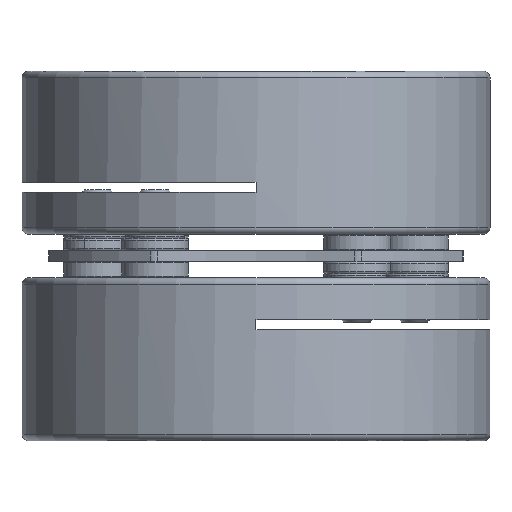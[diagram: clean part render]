
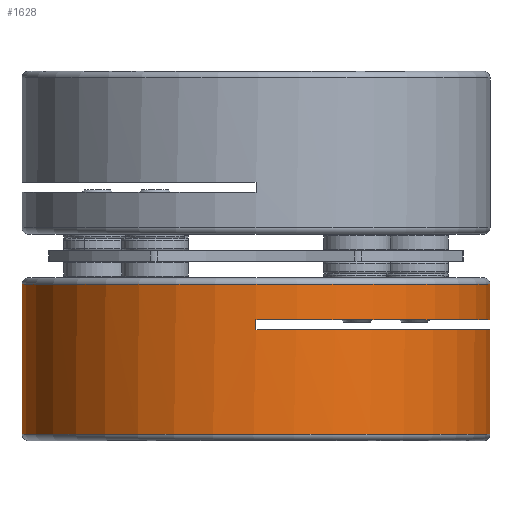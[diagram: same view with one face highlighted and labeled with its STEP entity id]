
A CAD part, front view. The second image highlights one B-rep face of the part: STEP entity #1628.
In plain terms, the highlighted cylindrical face has radius 28 mm (diameter 56 mm), a partial arc.
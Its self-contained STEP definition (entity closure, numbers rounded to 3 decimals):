
#986 = VERTEX_POINT ( 'NONE', #3998 ) ;
#987 = VERTEX_POINT ( 'NONE', #4048 ) ;
#1031 = VERTEX_POINT ( 'NONE', #4094 ) ;
#1036 = VERTEX_POINT ( 'NONE', #4061 ) ;
#1067 = EDGE_CURVE ( 'NONE', #986, #987, #4225, .T. ) ;
#1274 = EDGE_CURVE ( 'NONE', #986, #1036, #4474, .T. ) ;
#1277 = EDGE_CURVE ( 'NONE', #1278, #1031, #4569, .T. ) ;
#1278 = VERTEX_POINT ( 'NONE', #4565 ) ;
#1610 = ORIENTED_EDGE ( 'NONE', *, *, #1611, .F. ) ;
#1611 = EDGE_CURVE ( 'NONE', #1633, #1636, #5371, .T. ) ;
#1628 = ADVANCED_FACE ( 'NONE', ( #5221 ), #5219, .T. ) ;
#1632 = EDGE_LOOP ( 'NONE', ( #1705, #1703, #1695, #1610, #1634, #1637, #1638, #1639 ) ) ;
#1633 = VERTEX_POINT ( 'NONE', #5214 ) ;
#1634 = ORIENTED_EDGE ( 'NONE', *, *, #1635, .T. ) ;
#1635 = EDGE_CURVE ( 'NONE', #1633, #1719, #5213, .T. ) ;
#1636 = VERTEX_POINT ( 'NONE', #5349 ) ;
#1637 = ORIENTED_EDGE ( 'NONE', *, *, #1718, .F. ) ;
#1638 = ORIENTED_EDGE ( 'NONE', *, *, #1277, .T. ) ;
#1639 = ORIENTED_EDGE ( 'NONE', *, *, #1640, .T. ) ;
#1640 = EDGE_CURVE ( 'NONE', #1031, #1036, #5348, .T. ) ;
#1695 = ORIENTED_EDGE ( 'NONE', *, *, #1696, .F. ) ;
#1696 = EDGE_CURVE ( 'NONE', #1636, #987, #5549, .T. ) ;
#1703 = ORIENTED_EDGE ( 'NONE', *, *, #1067, .T. ) ;
#1705 = ORIENTED_EDGE ( 'NONE', *, *, #1274, .F. ) ;
#1718 = EDGE_CURVE ( 'NONE', #1278, #1719, #5425, .T. ) ;
#1719 = VERTEX_POINT ( 'NONE', #5470 ) ;
#3998 = CARTESIAN_POINT ( 'NONE',  ( 28., 0., 18.7 ) ) ;
#4048 = CARTESIAN_POINT ( 'NONE',  ( -27.994, -0.6, 18.7 ) ) ;
#4061 = CARTESIAN_POINT ( 'NONE',  ( 28., 0., 0.8 ) ) ;
#4094 = CARTESIAN_POINT ( 'NONE',  ( -28., 0., 0.8 ) ) ;
#4156 = DIRECTION ( 'NONE',  ( 1., 0., 0. ) ) ;
#4157 = DIRECTION ( 'NONE',  ( 0., 0., -1. ) ) ;
#4158 = CARTESIAN_POINT ( 'NONE',  ( 0., 0., 18.7 ) ) ;
#4159 = AXIS2_PLACEMENT_3D ( 'NONE', #4158, #4157, #4156 ) ;
#4225 = CIRCLE ( 'NONE', #4159, 28. ) ;
#4471 = DIRECTION ( 'NONE',  ( 0., 0., -1. ) ) ;
#4472 = VECTOR ( 'NONE', #4471, 1000. ) ;
#4473 = CARTESIAN_POINT ( 'NONE',  ( 28., 0., 19.5 ) ) ;
#4474 = LINE ( 'NONE', #4473, #4472 ) ;
#4565 = CARTESIAN_POINT ( 'NONE',  ( -28., 0., 5. ) ) ;
#4566 = DIRECTION ( 'NONE',  ( 0., 0., -1. ) ) ;
#4567 = VECTOR ( 'NONE', #4566, 1000. ) ;
#4568 = CARTESIAN_POINT ( 'NONE',  ( -28., 0., 19.5 ) ) ;
#4569 = LINE ( 'NONE', #4568, #4567 ) ;
#5211 = VECTOR ( 'NONE', #5350, 1000. ) ;
#5212 = CARTESIAN_POINT ( 'NONE',  ( 0., -28., 19.5 ) ) ;
#5213 = LINE ( 'NONE', #5212, #5211 ) ;
#5214 = CARTESIAN_POINT ( 'NONE',  ( 0., -28., 6.2 ) ) ;
#5215 = DIRECTION ( 'NONE',  ( -1., 0., 0. ) ) ;
#5216 = DIRECTION ( 'NONE',  ( 0., 0., -1. ) ) ;
#5217 = CARTESIAN_POINT ( 'NONE',  ( 0., 0., 19.5 ) ) ;
#5218 = AXIS2_PLACEMENT_3D ( 'NONE', #5217, #5216, #5215 ) ;
#5219 = CYLINDRICAL_SURFACE ( 'NONE', #5218, 28. ) ;
#5221 = FACE_OUTER_BOUND ( 'NONE', #1632, .T. ) ;
#5344 = DIRECTION ( 'NONE',  ( 1., 0., 0. ) ) ;
#5345 = DIRECTION ( 'NONE',  ( 0., 0., 1. ) ) ;
#5346 = CARTESIAN_POINT ( 'NONE',  ( 0., 0., 0.8 ) ) ;
#5347 = AXIS2_PLACEMENT_3D ( 'NONE', #5346, #5345, #5344 ) ;
#5348 = CIRCLE ( 'NONE', #5347, 28. ) ;
#5349 = CARTESIAN_POINT ( 'NONE',  ( -27.994, -0.6, 6.2 ) ) ;
#5350 = DIRECTION ( 'NONE',  ( 0., 0., -1. ) ) ;
#5367 = DIRECTION ( 'NONE',  ( 0., 1., 0. ) ) ;
#5368 = DIRECTION ( 'NONE',  ( 0., 0., -1. ) ) ;
#5369 = CARTESIAN_POINT ( 'NONE',  ( 0., 0., 6.2 ) ) ;
#5370 = AXIS2_PLACEMENT_3D ( 'NONE', #5369, #5368, #5367 ) ;
#5371 = CIRCLE ( 'NONE', #5370, 28. ) ;
#5383 = CARTESIAN_POINT ( 'NONE',  ( -27.994, -0.6, 19.5 ) ) ;
#5421 = DIRECTION ( 'NONE',  ( 0., -1., 0. ) ) ;
#5422 = DIRECTION ( 'NONE',  ( 0., 0., 1. ) ) ;
#5423 = CARTESIAN_POINT ( 'NONE',  ( 0., 0., 5. ) ) ;
#5424 = AXIS2_PLACEMENT_3D ( 'NONE', #5423, #5422, #5421 ) ;
#5425 = CIRCLE ( 'NONE', #5424, 28. ) ;
#5470 = CARTESIAN_POINT ( 'NONE',  ( 0., -28., 5. ) ) ;
#5520 = DIRECTION ( 'NONE',  ( 0., 0., 1. ) ) ;
#5521 = VECTOR ( 'NONE', #5520, 1000. ) ;
#5549 = LINE ( 'NONE', #5383, #5521 ) ;
